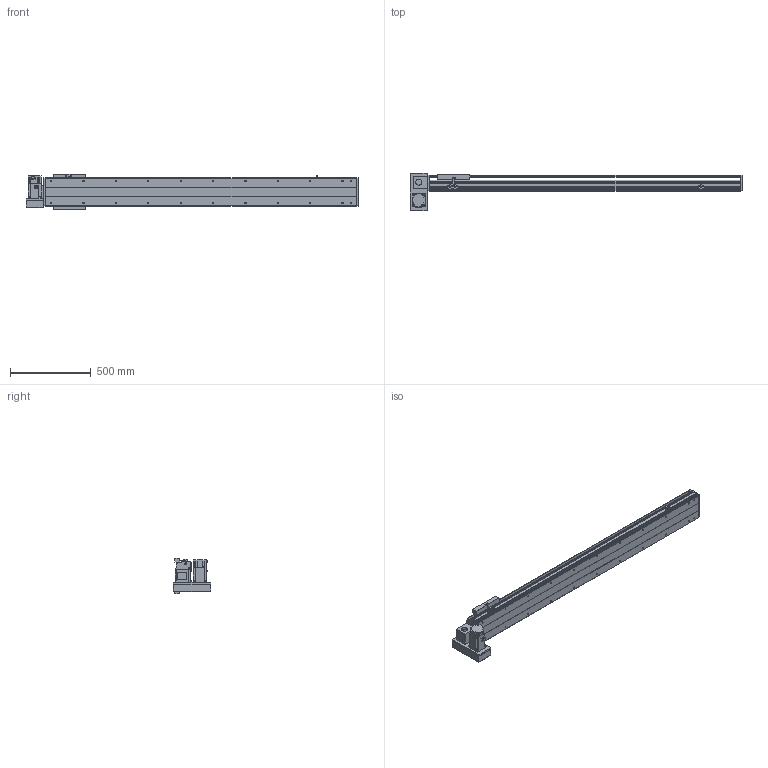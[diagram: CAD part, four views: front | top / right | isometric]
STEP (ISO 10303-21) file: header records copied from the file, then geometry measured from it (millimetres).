
FILE_DESCRIPTION(/* description */ ('STEP AP214'),/* implementation_level */ '2;1');
FILE_NAME(/* name */ 'PBS200-P40-S1550-LD-T75-C1-N(0)',/* time_stamp */ '2022-06-11T08:45:03+02:00',/* author */ ('License CC BY-ND 4.0'),/* organization */ ('CADENAS'),/* preprocessor_version */ 'ST-DEVELOPER v18.102',/* originating_system */ 'PARTsolutions',/* authorisation */ ' ');
FILE_SCHEMA (('AUTOMOTIVE_DESIGN {1 0 10303 214 3 1 1}'));
Length unit declared in the file: millimetre
Products named in the file (7): PBS200-P40-S1550-LD-T75-C1-N(0); PBS200_sensor; PBS200_plant; PBS200_sliser; T75-p1; PBS200T-LD_motors; PBS200-S1550()_body
Assembly tree (8 placements, depth 2):
  PBS200-P40-S1550-LD-T75-C1-N(0)
    PBS200_sensor  x3
    PBS200_plant
    PBS200_sliser
    T75-p1
    PBS200T-LD_motors
    PBS200-S1550()_body
Bounding box: 2050 x 230 x 221 mm (x, y, z)
Volume: 14671314.1 mm3; surface area: 2361277.1 mm2
Topology: 8 solids, 8 shells, 938 faces, 2404 edges, 1566 vertices
Faces by surface type: plane 580, cylinder 304, cone 54
Full cylindrical faces by diameter (mm): 2.459 x6, 3.242 x4, 4.5 x6, 4.917 x4, 5 x6, 6 x7, 6.6 x8, 6.647 x26, 8 x6, 10 x4, 12 x8, 38 x2, 40 x1, 70 x1
Entity records: 24941 total; most frequent: DIRECTION 4399, CARTESIAN_POINT 4246, ORIENTED_EDGE 4018, EDGE_CURVE 2009, AXIS2_PLACEMENT_3D 1543, VERTEX_POINT 1390, LINE 1313, VECTOR 1313
